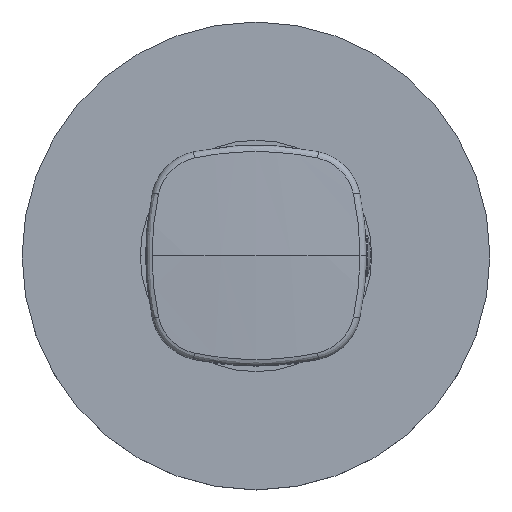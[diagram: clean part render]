
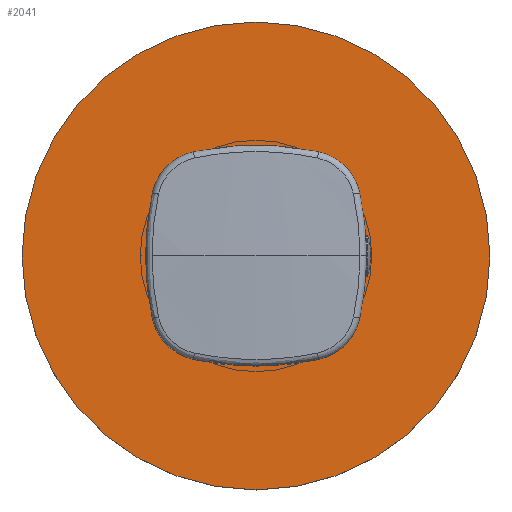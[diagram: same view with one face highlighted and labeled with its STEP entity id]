
A CAD part, top view. The second image highlights one B-rep face of the part: STEP entity #2041.
In plain terms, the highlighted planar face has unit normal (0, 0, 1).
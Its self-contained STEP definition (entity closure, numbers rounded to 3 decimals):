
#285=CARTESIAN_POINT('',(0.,0.,-22.8));
#286=DIRECTION('',(0.,0.,-1.));
#287=DIRECTION('',(1.,0.,0.));
#288=AXIS2_PLACEMENT_3D('',#285,#286,#287);
#290=CARTESIAN_POINT('',(0.,0.,-22.8));
#291=DIRECTION('',(0.,0.,1.));
#292=DIRECTION('',(1.,0.,0.));
#293=AXIS2_PLACEMENT_3D('',#290,#291,#292);
#295=CARTESIAN_POINT('',(0.,0.,-22.8));
#296=DIRECTION('',(0.,0.,1.));
#297=DIRECTION('',(1.,0.,0.));
#298=AXIS2_PLACEMENT_3D('',#295,#296,#297);
#309=CARTESIAN_POINT('',(0.,0.,-22.8));
#310=DIRECTION('',(0.,0.,1.));
#311=DIRECTION('',(-1.,0.,0.));
#312=AXIS2_PLACEMENT_3D('',#309,#310,#311);
#1256=CARTESIAN_POINT('',(35.,0.,-22.8));
#1258=VERTEX_POINT('',#1256);
#1264=CARTESIAN_POINT('',(-35.,0.,-22.8));
#1266=VERTEX_POINT('',#1264);
#1428=CARTESIAN_POINT('',(16.5,0.,-22.8));
#1429=CARTESIAN_POINT('',(-16.5,0.,-22.8));
#1430=VERTEX_POINT('',#1428);
#1431=VERTEX_POINT('',#1429);
#2026=CARTESIAN_POINT('',(0.,0.,-22.8));
#2027=DIRECTION('',(0.,0.,1.));
#2028=DIRECTION('',(-1.,0.,0.));
#2029=AXIS2_PLACEMENT_3D('',#2026,#2027,#2028);
#2030=PLANE('',#2029);
#2031=ORIENTED_EDGE('',*,*,#2012,.F.);
#2032=ORIENTED_EDGE('',*,*,#1994,.T.);
#2033=EDGE_LOOP('',(#2031,#2032));
#2034=FACE_OUTER_BOUND('',#2033,.F.);
#2036=ORIENTED_EDGE('',*,*,#2035,.T.);
#2038=ORIENTED_EDGE('',*,*,#2037,.T.);
#2039=EDGE_LOOP('',(#2036,#2038));
#2040=FACE_BOUND('',#2039,.F.);
#289=CIRCLE('',#288,35.);
#294=CIRCLE('',#293,35.);
#299=CIRCLE('',#298,16.5);
#313=CIRCLE('',#312,16.5);
#1994=EDGE_CURVE('',#1258,#1266,#289,.T.);
#2012=EDGE_CURVE('',#1258,#1266,#294,.T.);
#2035=EDGE_CURVE('',#1430,#1431,#299,.T.);
#2037=EDGE_CURVE('',#1431,#1430,#313,.T.);
#2041=ADVANCED_FACE('',(#2034,#2040),#2030,.T.);
